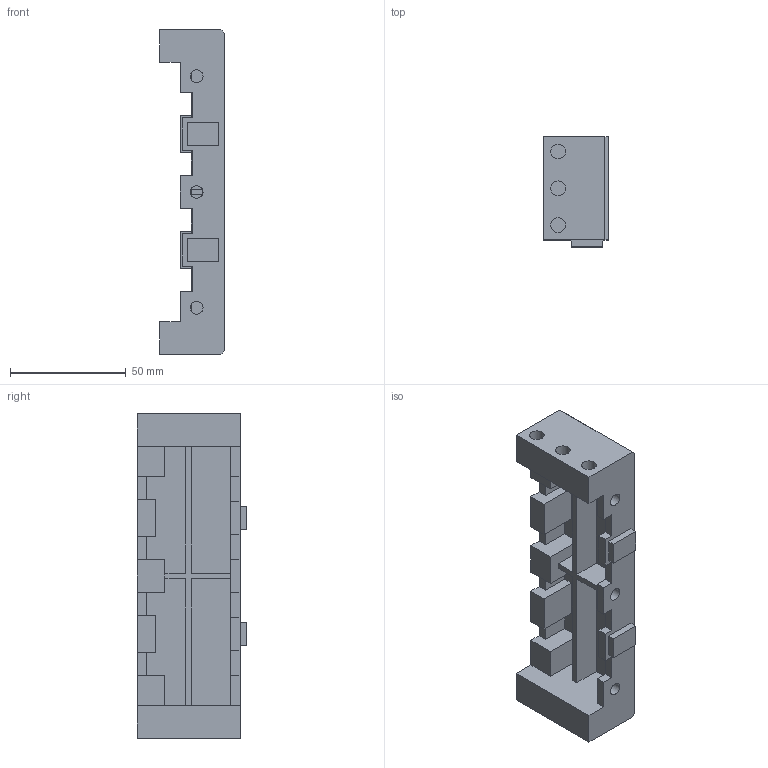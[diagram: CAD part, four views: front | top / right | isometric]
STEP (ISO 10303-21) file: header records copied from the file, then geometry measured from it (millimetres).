
FILE_DESCRIPTION(('Open CASCADE Model'),'2;1');
FILE_NAME('Open CASCADE Shape Model','2026-10-28T13:12:27',('Author'),( 'Open CASCADE'),'Open CASCADE STEP processor 7.9','Open CASCADE 7.9' ,'Unknown');
FILE_SCHEMA(('AUTOMOTIVE_DESIGN { 1 0 10303 214 1 1 1 1 }'));
Length unit declared in the file: millimetre
Products named in the file (1): Open CASCADE STEP translator 7.9 3
Bounding box: 28 x 47.45 x 140 mm (x, y, z)
Volume: 67865.8 mm3; surface area: 31987.1 mm2
Topology: 1 solids, 1 shells, 110 faces, 288 edges, 192 vertices
Faces by surface type: plane 98, cylinder 12
Full cylindrical faces by diameter (mm): 5.5 x3, 6.4 x9
Entity records: 6961 total; most frequent: CARTESIAN_POINT 1445, DIRECTION 909, LINE 624, VECTOR 624, ORIENTED_EDGE 576, PCURVE 576, DEFINITIONAL_REPRESENTATION 576, EDGE_CURVE 288
